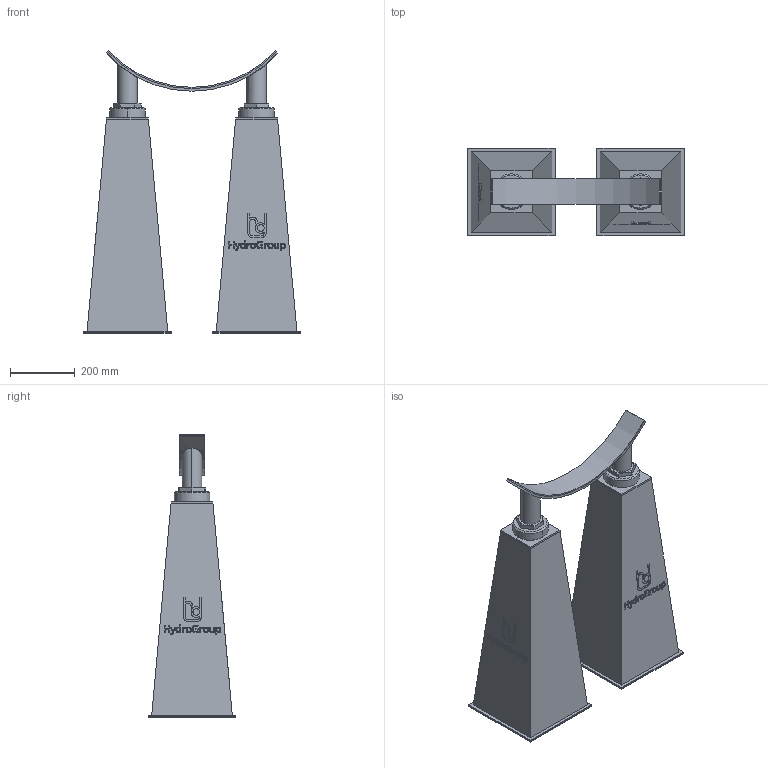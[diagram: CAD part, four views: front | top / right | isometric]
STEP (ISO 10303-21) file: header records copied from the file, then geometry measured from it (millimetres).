
FILE_DESCRIPTION(('STEP AP214'),'1');
FILE_NAME('RSRFE-I-DUO_DN700.stp','2018-07-02T08:25:30',(' '),(' '),'Spatial InterOp 3D',' ',' ');
FILE_SCHEMA(('automotive_design'));
Length unit declared in the file: millimetre
Products named in the file (10): 1; 2; 3; 4; 5; 6; 7; 8; 9; 10
Bounding box: 670 x 270 x 875.44 mm (x, y, z)
Volume: 53138460.7 mm3; surface area: 1920973.2 mm2
Topology: 10 solids, 10 shells, 410 faces, 1022 edges, 672 vertices
Faces by surface type: plane 272, cylinder 62, extrusion 48, cone 28
Entity records: 16895 total; most frequent: CARTESIAN_POINT 3712, ORIENTED_EDGE 2044, DIRECTION 1838, EDGE_CURVE 1022, VECTOR 798, LINE 750, VERTEX_POINT 672, AXIS2_PLACEMENT_3D 520
